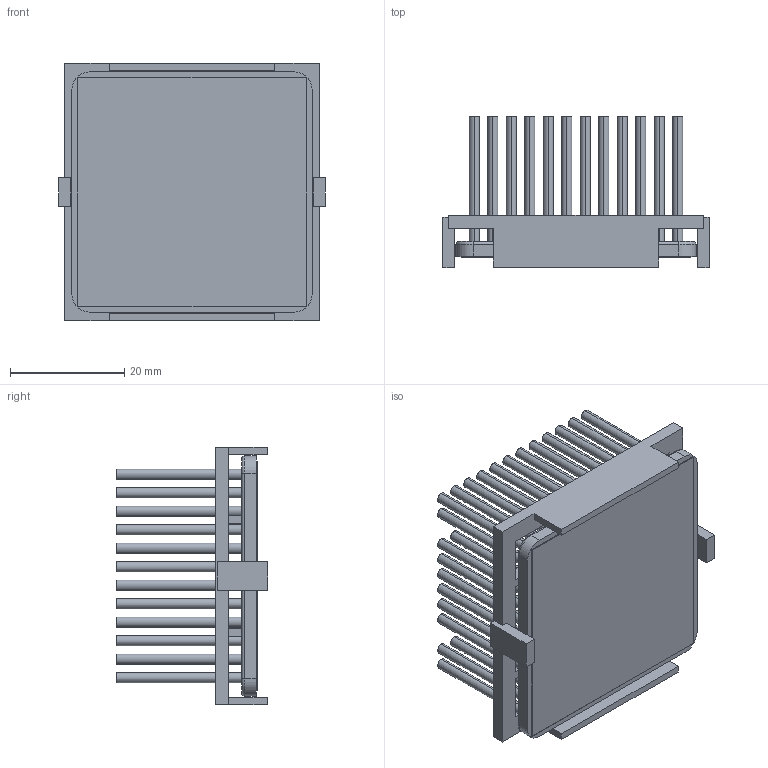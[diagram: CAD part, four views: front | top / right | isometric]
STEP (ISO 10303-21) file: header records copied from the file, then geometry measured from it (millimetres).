
FILE_DESCRIPTION (( 'STEP AP214' ), '1' );
FILE_NAME ('INM42.5002-25PCU-2.6BU.STEP', '2023-02-28T00:28:23', ( '' ), ( '' ), 'SwSTEP 2.0', 'SolidWorks 2020', '' );
FILE_SCHEMA (( 'AUTOMOTIVE_DESIGN' ));
Length unit declared in the file: inch
Products named in the file (1): INM42.5002-25PCU-2.6BU
Bounding box: 46.7 x 26.6 x 45.1 mm (x, y, z)
Volume: 14516.8 mm3; surface area: 27321.2 mm2
Topology: 3 solids, 3 shells, 486 faces, 1024 edges, 680 vertices
Faces by surface type: cylinder 280, plane 202, torus 4
Entity records: 19652 total; most frequent: DIRECTION 2562, CARTESIAN_POINT 2191, ORIENTED_EDGE 2048, AXIS2_PLACEMENT_3D 1051, EDGE_CURVE 1024, VERTEX_POINT 680, EDGE_LOOP 624, CIRCLE 564
